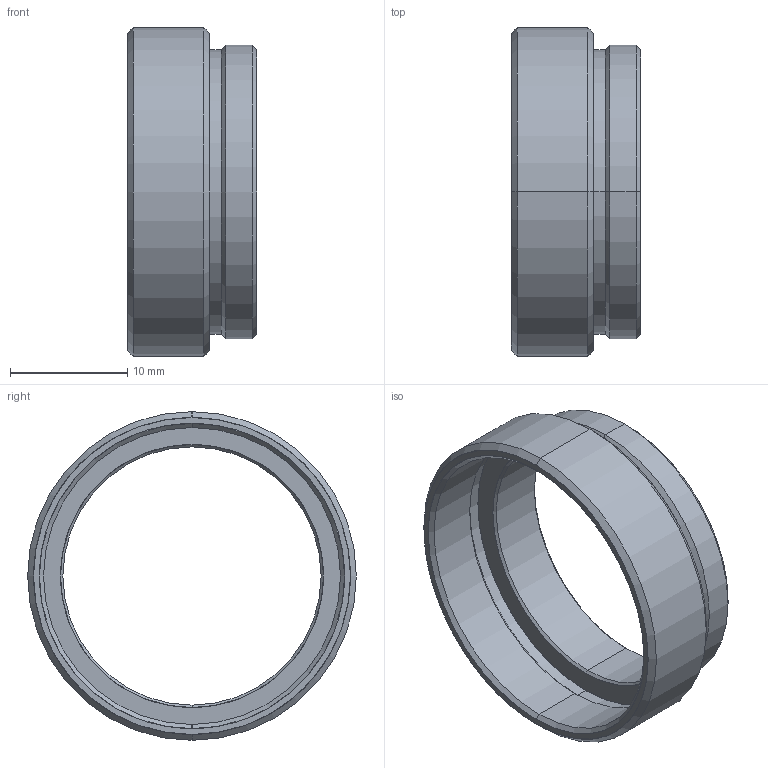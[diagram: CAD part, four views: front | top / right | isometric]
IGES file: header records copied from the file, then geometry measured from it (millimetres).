
Start section: SolidWorks IGES file using analytic representation for surfaces
Global section: file name: \\192.168.200.11\Development\3 製品\1 標準品\05 顕微鏡ユニット\01 VS-MS Series\AD-MS1N-OL,MT\10.3D外観モデル\AD-MS1N-MT.IGS; native system: SolidWorks 2018; preprocessor: SolidWorks 2018; author: tsuzuki_vst; date: 190730.095340; units: millimetre
Bounding box: 11 x 28 x 28 mm (x, y, z)
Surface area: 2202.6 mm2 (no closed solid volume)
Topology: 0 solids, 0 shells, 32 faces, 368 edges, 368 vertices
Faces by surface type: revolution 28, bspline 4
